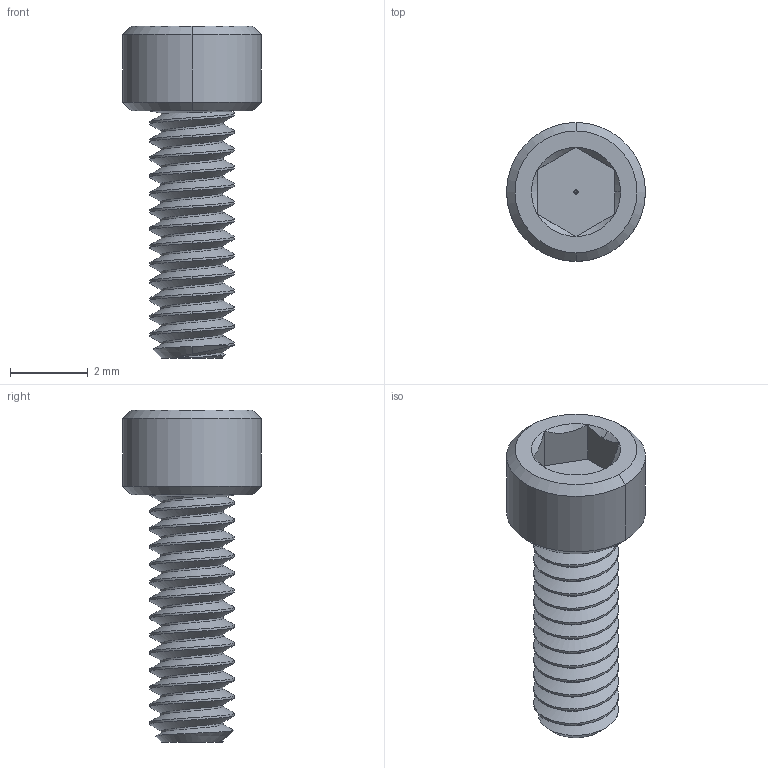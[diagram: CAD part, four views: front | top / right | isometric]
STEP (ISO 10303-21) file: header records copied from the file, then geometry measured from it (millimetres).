
FILE_DESCRIPTION (( 'STEP AP203' ), '1' );
FILE_NAME ('91251A077_Black-Oxide Alloy Steel Socket Head Screw.STEP', '2021-09-07T19:25:35', ( 'Administrator' ), ( 'Managed by Terraform' ), 'SwSTEP 2.0', 'SolidWorks 2017', '' );
FILE_SCHEMA (( 'CONFIG_CONTROL_DESIGN' ));
Length unit declared in the file: inch
Products named in the file (1): 91251A077_Black-Oxide Alloy Steel Socket Head Screw
Bounding box: 3.57 x 3.57 x 8.53 mm (x, y, z)
Volume: 35.6 mm3; surface area: 113.2 mm2
Topology: 1 solids, 1 shells, 61 faces, 153 edges, 95 vertices
Faces by surface type: cylinder 29, cone 19, plane 10, bspline 3
Entity records: 3492 total; most frequent: CARTESIAN_POINT 2166, ORIENTED_EDGE 302, DIRECTION 218, EDGE_CURVE 151, VERTEX_POINT 95, AXIS2_PLACEMENT_3D 83, EDGE_LOOP 64, FACE_OUTER_BOUND 61
